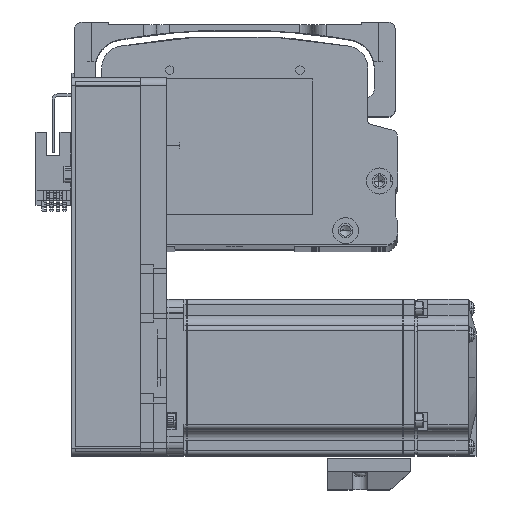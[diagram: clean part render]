
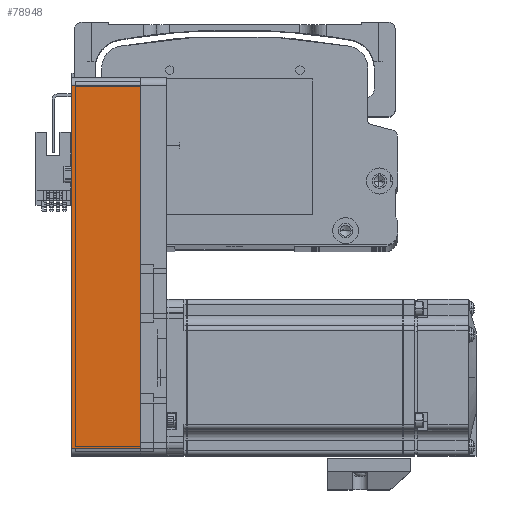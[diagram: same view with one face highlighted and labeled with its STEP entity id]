
A CAD part, top view. The second image highlights one B-rep face of the part: STEP entity #78948.
In plain terms, the highlighted planar face has unit normal (0, 0, 1) as drawn and (0, 1, 0) by its records, which use the part's own axes.
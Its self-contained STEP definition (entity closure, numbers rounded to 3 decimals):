
#6070 = CARTESIAN_POINT ( 'NONE',  ( -69.5, 30., 26.5 ) ) ;
#9569 = ORIENTED_EDGE ( 'NONE', *, *, #85562, .T. ) ;
#10959 = DIRECTION ( 'NONE',  ( 0., -1., 0. ) ) ;
#11889 = CARTESIAN_POINT ( 'NONE',  ( 72.5, 30., 26.5 ) ) ;
#13164 = EDGE_CURVE ( 'NONE', #50077, #33700, #14950, .T. ) ;
#14337 = CARTESIAN_POINT ( 'NONE',  ( 72.5, 30., 0. ) ) ;
#14950 = LINE ( 'NONE', #27227, #83276 ) ;
#15309 = CARTESIAN_POINT ( 'NONE',  ( 69.5, 30., 26.5 ) ) ;
#20182 = CARTESIAN_POINT ( 'NONE',  ( -69.5, 30., 0. ) ) ;
#22335 = EDGE_CURVE ( 'NONE', #22970, #33700, #68867, .T. ) ;
#22850 = CARTESIAN_POINT ( 'NONE',  ( 69.5, 30., 0. ) ) ;
#22970 = VERTEX_POINT ( 'NONE', #52559 ) ;
#27227 = CARTESIAN_POINT ( 'NONE',  ( -69.5, 30., 26.5 ) ) ;
#33700 = VERTEX_POINT ( 'NONE', #6070 ) ;
#33948 = ORIENTED_EDGE ( 'NONE', *, *, #13164, .T. ) ;
#35725 = VECTOR ( 'NONE', #51795, 1000. ) ;
#41431 = EDGE_CURVE ( 'NONE', #22970, #56127, #81575, .T. ) ;
#46282 = VECTOR ( 'NONE', #53982, 1000. ) ;
#50077 = VERTEX_POINT ( 'NONE', #20182 ) ;
#50590 = CARTESIAN_POINT ( 'NONE',  ( 72.5, 30., 26.5 ) ) ;
#51018 = EDGE_LOOP ( 'NONE', ( #9569, #33948, #51230, #84482 ) ) ;
#51230 = ORIENTED_EDGE ( 'NONE', *, *, #22335, .F. ) ;
#51795 = DIRECTION ( 'NONE',  ( -1., 0., 0. ) ) ;
#52559 = CARTESIAN_POINT ( 'NONE',  ( 69.5, 30., 26.5 ) ) ;
#53982 = DIRECTION ( 'NONE',  ( -1., 0., 0. ) ) ;
#54930 = DIRECTION ( 'NONE',  ( 0., 0., -1. ) ) ;
#56127 = VERTEX_POINT ( 'NONE', #22850 ) ;
#57259 = DIRECTION ( 'NONE',  ( 1., 0., 0. ) ) ;
#61808 = LINE ( 'NONE', #14337, #46282 ) ;
#63627 = PLANE ( 'NONE',  #68141 ) ;
#63979 = VECTOR ( 'NONE', #54930, 1000. ) ;
#66824 = DIRECTION ( 'NONE',  ( 0., 0., 1. ) ) ;
#68141 = AXIS2_PLACEMENT_3D ( 'NONE', #50590, #10959, #57259 ) ;
#68867 = LINE ( 'NONE', #11889, #35725 ) ;
#78948 = ADVANCED_FACE ( 'NONE', ( #82304 ), #63627, .F. ) ;
#81575 = LINE ( 'NONE', #15309, #63979 ) ;
#82304 = FACE_OUTER_BOUND ( 'NONE', #51018, .T. ) ;
#83276 = VECTOR ( 'NONE', #66824, 1000. ) ;
#84482 = ORIENTED_EDGE ( 'NONE', *, *, #41431, .T. ) ;
#85562 = EDGE_CURVE ( 'NONE', #56127, #50077, #61808, .T. ) ;
